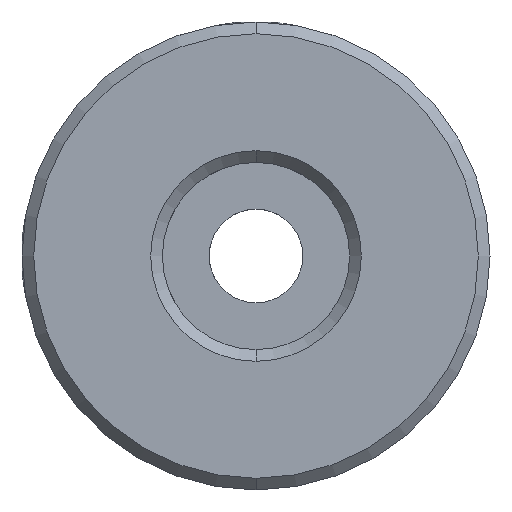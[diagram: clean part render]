
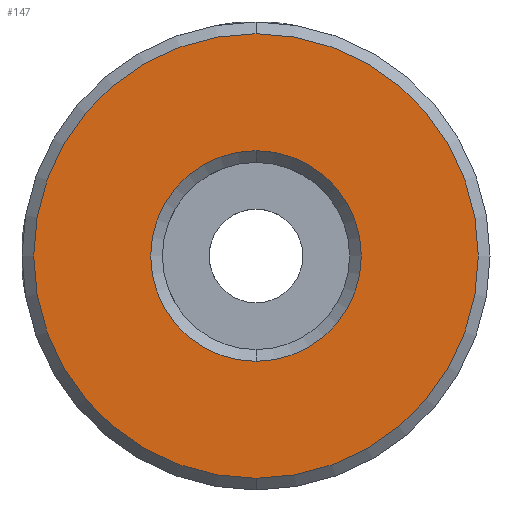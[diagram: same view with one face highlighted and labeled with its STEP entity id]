
A CAD part, front view. The second image highlights one B-rep face of the part: STEP entity #147.
In plain terms, the highlighted planar face has unit normal (0, -1, 0).
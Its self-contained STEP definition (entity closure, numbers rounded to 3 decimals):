
#1 = DIRECTION ( 'NONE',  ( 0., -1., 0. ) ) ;
#7 = FACE_BOUND ( 'NONE', #1777, .T. ) ;
#119 = AXIS2_PLACEMENT_3D ( 'NONE', #3535, #3518, #972 ) ;
#147 = ADVANCED_FACE ( 'NONE', ( #1669, #7 ), #1206, .F. ) ;
#208 = EDGE_CURVE ( 'NONE', #2651, #3324, #3134, .T. ) ;
#229 = ORIENTED_EDGE ( 'NONE', *, *, #549, .T. ) ;
#549 = EDGE_CURVE ( 'NONE', #1610, #2661, #2603, .T. ) ;
#564 = ORIENTED_EDGE ( 'NONE', *, *, #1404, .T. ) ;
#736 = AXIS2_PLACEMENT_3D ( 'NONE', #3150, #1, #1117 ) ;
#819 = DIRECTION ( 'NONE',  ( 0., 1., 0. ) ) ;
#972 = DIRECTION ( 'NONE',  ( 0., 0., 1. ) ) ;
#1005 = AXIS2_PLACEMENT_3D ( 'NONE', #2333, #819, #1958 ) ;
#1117 = DIRECTION ( 'NONE',  ( 0., 0., 1. ) ) ;
#1206 = PLANE ( 'NONE',  #1005 ) ;
#1225 = ORIENTED_EDGE ( 'NONE', *, *, #2701, .T. ) ;
#1273 = DIRECTION ( 'NONE',  ( 0., 1., 0. ) ) ;
#1404 = EDGE_CURVE ( 'NONE', #2661, #1610, #2761, .T. ) ;
#1610 = VERTEX_POINT ( 'NONE', #2210 ) ;
#1669 = FACE_OUTER_BOUND ( 'NONE', #2443, .T. ) ;
#1716 = ORIENTED_EDGE ( 'NONE', *, *, #208, .T. ) ;
#1726 = CARTESIAN_POINT ( 'NONE',  ( -10.188, -0.277, 0.046 ) ) ;
#1739 = CARTESIAN_POINT ( 'NONE',  ( -10.188, -0.277, 4.546 ) ) ;
#1777 = EDGE_LOOP ( 'NONE', ( #1716, #1225 ) ) ;
#1798 = CARTESIAN_POINT ( 'NONE',  ( -10.188, -0.277, -4.454 ) ) ;
#1889 = DIRECTION ( 'NONE',  ( 0., 0., 1. ) ) ;
#1958 = DIRECTION ( 'NONE',  ( 0., 0., 1. ) ) ;
#2210 = CARTESIAN_POINT ( 'NONE',  ( -10.188, -0.277, 9.546 ) ) ;
#2333 = CARTESIAN_POINT ( 'NONE',  ( -10.188, -0.277, 0.046 ) ) ;
#2425 = CARTESIAN_POINT ( 'NONE',  ( -10.188, -0.277, -9.454 ) ) ;
#2443 = EDGE_LOOP ( 'NONE', ( #229, #564 ) ) ;
#2603 = CIRCLE ( 'NONE', #2905, 9.5 ) ;
#2651 = VERTEX_POINT ( 'NONE', #1798 ) ;
#2661 = VERTEX_POINT ( 'NONE', #2425 ) ;
#2697 = CARTESIAN_POINT ( 'NONE',  ( -10.188, -0.277, 0.046 ) ) ;
#2701 = EDGE_CURVE ( 'NONE', #3324, #2651, #3304, .T. ) ;
#2761 = CIRCLE ( 'NONE', #736, 9.5 ) ;
#2905 = AXIS2_PLACEMENT_3D ( 'NONE', #1726, #3390, #3170 ) ;
#2960 = AXIS2_PLACEMENT_3D ( 'NONE', #2697, #1273, #1889 ) ;
#3134 = CIRCLE ( 'NONE', #119, 4.5 ) ;
#3150 = CARTESIAN_POINT ( 'NONE',  ( -10.188, -0.277, 0.046 ) ) ;
#3170 = DIRECTION ( 'NONE',  ( 0., 0., 1. ) ) ;
#3304 = CIRCLE ( 'NONE', #2960, 4.5 ) ;
#3324 = VERTEX_POINT ( 'NONE', #1739 ) ;
#3390 = DIRECTION ( 'NONE',  ( 0., -1., 0. ) ) ;
#3518 = DIRECTION ( 'NONE',  ( 0., 1., 0. ) ) ;
#3535 = CARTESIAN_POINT ( 'NONE',  ( -10.188, -0.277, 0.046 ) ) ;
